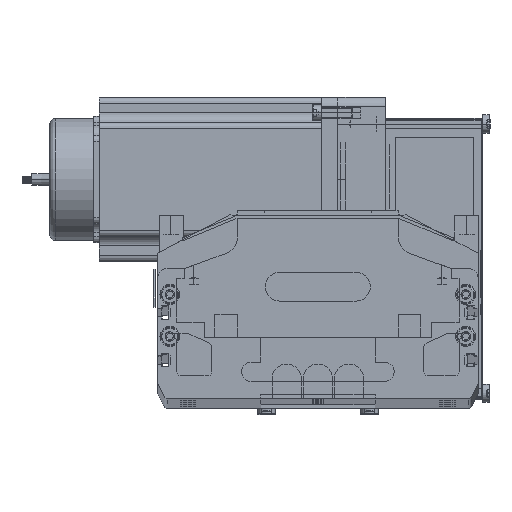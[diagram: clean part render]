
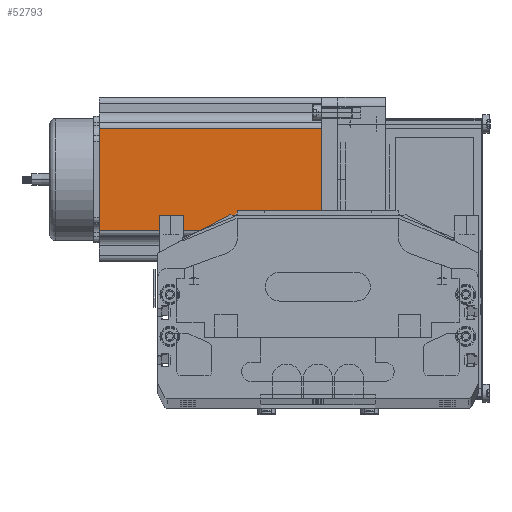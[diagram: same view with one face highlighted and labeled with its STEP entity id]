
A CAD part, top view. The second image highlights one B-rep face of the part: STEP entity #52793.
In plain terms, the highlighted planar face has unit normal (0, 0, 1) as drawn and (0, -1, 0) by its records, which use the part's own axes.
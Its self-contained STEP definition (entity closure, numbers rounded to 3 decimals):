
#52725 = ORIENTED_EDGE ( 'NONE', *, *, #52730, .T. ) ;
#52730 = EDGE_CURVE ( 'NONE', #52789, #52810, #81221, .T. ) ;
#52784 = VERTEX_POINT ( 'NONE', #81372 ) ;
#52789 = VERTEX_POINT ( 'NONE', #81364 ) ;
#52790 = EDGE_LOOP ( 'NONE', ( #52725, #52801, #52803, #52805 ) ) ;
#52793 = ADVANCED_FACE ( 'NONE', ( #81393 ), #81392, .F. ) ;
#52794 = VERTEX_POINT ( 'NONE', #81391 ) ;
#52801 = ORIENTED_EDGE ( 'NONE', *, *, #52815, .T. ) ;
#52802 = EDGE_CURVE ( 'NONE', #52794, #52784, #81428, .T. ) ;
#52803 = ORIENTED_EDGE ( 'NONE', *, *, #52802, .F. ) ;
#52804 = EDGE_CURVE ( 'NONE', #52794, #52789, #81422, .T. ) ;
#52805 = ORIENTED_EDGE ( 'NONE', *, *, #52804, .T. ) ;
#52810 = VERTEX_POINT ( 'NONE', #81417 ) ;
#52815 = EDGE_CURVE ( 'NONE', #52810, #52784, #81472, .T. ) ;
#81218 = DIRECTION ( 'NONE',  ( 1., 0., 0. ) ) ;
#81219 = VECTOR ( 'NONE', #81218, 1000. ) ;
#81220 = CARTESIAN_POINT ( 'NONE',  ( 0., 0., 0. ) ) ;
#81221 = LINE ( 'NONE', #81220, #81219 ) ;
#81364 = CARTESIAN_POINT ( 'NONE',  ( 16.16, 0., 0. ) ) ;
#81372 = CARTESIAN_POINT ( 'NONE',  ( 69.74, 0., 116.5 ) ) ;
#81384 = DIRECTION ( 'NONE',  ( 0., 0., 1. ) ) ;
#81385 = DIRECTION ( 'NONE',  ( 0., 1., 0. ) ) ;
#81386 = CARTESIAN_POINT ( 'NONE',  ( 0., 0., 116.5 ) ) ;
#81391 = CARTESIAN_POINT ( 'NONE',  ( 16.16, 0., 116.5 ) ) ;
#81392 = PLANE ( 'NONE',  #81400 ) ;
#81393 = FACE_OUTER_BOUND ( 'NONE', #52790, .T. ) ;
#81400 = AXIS2_PLACEMENT_3D ( 'NONE', #81386, #81385, #81384 ) ;
#81417 = CARTESIAN_POINT ( 'NONE',  ( 69.74, 0., 0. ) ) ;
#81419 = DIRECTION ( 'NONE',  ( 0., 0., -1. ) ) ;
#81420 = VECTOR ( 'NONE', #81419, 1000. ) ;
#81421 = CARTESIAN_POINT ( 'NONE',  ( 16.16, 0., 116.5 ) ) ;
#81422 = LINE ( 'NONE', #81421, #81420 ) ;
#81425 = DIRECTION ( 'NONE',  ( 1., 0., 0. ) ) ;
#81426 = VECTOR ( 'NONE', #81425, 1000. ) ;
#81427 = CARTESIAN_POINT ( 'NONE',  ( 0., 0., 116.5 ) ) ;
#81428 = LINE ( 'NONE', #81427, #81426 ) ;
#81469 = DIRECTION ( 'NONE',  ( 0., 0., 1. ) ) ;
#81470 = VECTOR ( 'NONE', #81469, 1000. ) ;
#81471 = CARTESIAN_POINT ( 'NONE',  ( 69.74, 0., 116.5 ) ) ;
#81472 = LINE ( 'NONE', #81471, #81470 ) ;
